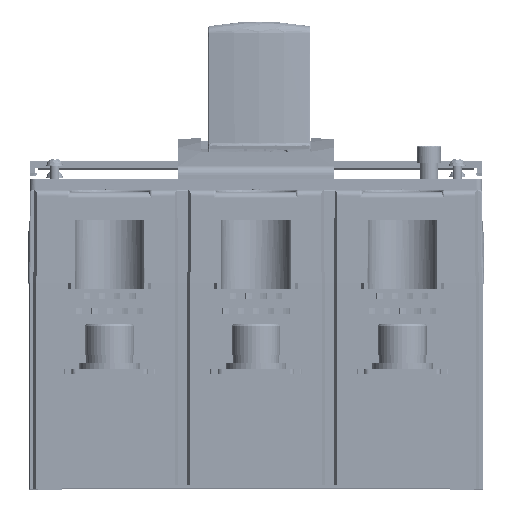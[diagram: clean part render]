
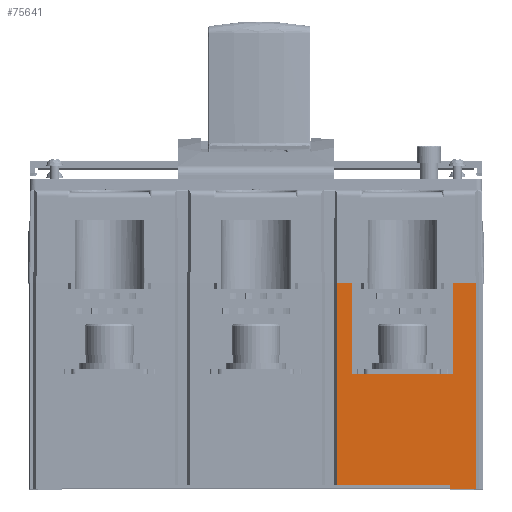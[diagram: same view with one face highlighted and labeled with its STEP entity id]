
A CAD part, top view. The second image highlights one B-rep face of the part: STEP entity #75641.
In plain terms, the highlighted planar face has unit normal (0, 0, 1).
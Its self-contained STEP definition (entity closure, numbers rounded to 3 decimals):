
#3094 = VECTOR ( 'NONE', #238302, 1000. ) ;
#15027 = ORIENTED_EDGE ( 'NONE', *, *, #219218, .F. ) ;
#25553 = CARTESIAN_POINT ( 'NONE',  ( 20.728, -16.002, 6.576 ) ) ;
#25857 = CARTESIAN_POINT ( 'NONE',  ( 121.588, 50.298, 6.576 ) ) ;
#37359 = CARTESIAN_POINT ( 'NONE',  ( 159.588, 20.298, 6.576 ) ) ;
#39336 = DIRECTION ( 'NONE',  ( 1., 0., 0. ) ) ;
#46519 = VERTEX_POINT ( 'NONE', #189696 ) ;
#51379 = EDGE_CURVE ( 'NONE', #68279, #153816, #164089, .T. ) ;
#53013 = VERTEX_POINT ( 'NONE', #232893 ) ;
#55403 = ORIENTED_EDGE ( 'NONE', *, *, #51379, .F. ) ;
#55511 = DIRECTION ( 'NONE',  ( 1., 0., 0. ) ) ;
#56698 = VECTOR ( 'NONE', #55511, 1000. ) ;
#58473 = LINE ( 'NONE', #82093, #255062 ) ;
#68279 = VERTEX_POINT ( 'NONE', #284366 ) ;
#69300 = ORIENTED_EDGE ( 'NONE', *, *, #246934, .F. ) ;
#69569 = EDGE_CURVE ( 'NONE', #53013, #72264, #185651, .T. ) ;
#72264 = VERTEX_POINT ( 'NONE', #257328 ) ;
#75641 = ADVANCED_FACE ( 'NONE', ( #305620 ), #125683, .F. ) ;
#76086 = LINE ( 'NONE', #176777, #285057 ) ;
#76790 = ORIENTED_EDGE ( 'NONE', *, *, #179485, .F. ) ;
#82093 = CARTESIAN_POINT ( 'NONE',  ( 167.088, 51.648, 6.576 ) ) ;
#87144 = EDGE_CURVE ( 'NONE', #179464, #311957, #132362, .T. ) ;
#94915 = LINE ( 'NONE', #288507, #3094 ) ;
#102339 = EDGE_LOOP ( 'NONE', ( #269939, #136103, #76790, #15027, #144002, #289645, #214553, #69300, #55403, #146062 ) ) ;
#103734 = VECTOR ( 'NONE', #263775, 1000. ) ;
#107731 = LINE ( 'NONE', #217452, #141254 ) ;
#107866 = EDGE_CURVE ( 'NONE', #166108, #179464, #312854, .T. ) ;
#107980 = CARTESIAN_POINT ( 'NONE',  ( 126.588, 20.298, 6.576 ) ) ;
#125683 = PLANE ( 'NONE',  #146070 ) ;
#132362 = LINE ( 'NONE', #137474, #56698 ) ;
#135374 = EDGE_CURVE ( 'NONE', #72264, #68279, #229187, .T. ) ;
#136103 = ORIENTED_EDGE ( 'NONE', *, *, #335826, .F. ) ;
#137474 = CARTESIAN_POINT ( 'NONE',  ( 167.998, 20.298, 6.576 ) ) ;
#141254 = VECTOR ( 'NONE', #267807, 1000. ) ;
#144002 = ORIENTED_EDGE ( 'NONE', *, *, #169189, .F. ) ;
#146062 = ORIENTED_EDGE ( 'NONE', *, *, #135374, .F. ) ;
#146070 = AXIS2_PLACEMENT_3D ( 'NONE', #339135, #308994, #202669 ) ;
#153816 = VERTEX_POINT ( 'NONE', #25857 ) ;
#163949 = DIRECTION ( 'NONE',  ( 0., -1., 0. ) ) ;
#164089 = LINE ( 'NONE', #212574, #268338 ) ;
#166108 = VERTEX_POINT ( 'NONE', #171276 ) ;
#169189 = EDGE_CURVE ( 'NONE', #311957, #295366, #107731, .T. ) ;
#171276 = CARTESIAN_POINT ( 'NONE',  ( 126.588, 50.298, 6.576 ) ) ;
#176623 = LINE ( 'NONE', #199507, #247700 ) ;
#176777 = CARTESIAN_POINT ( 'NONE',  ( 67.422, 50.298, 6.576 ) ) ;
#179464 = VERTEX_POINT ( 'NONE', #107980 ) ;
#179485 = EDGE_CURVE ( 'NONE', #308508, #46519, #58473, .T. ) ;
#184588 = DIRECTION ( 'NONE',  ( -1., 0., 0. ) ) ;
#185651 = LINE ( 'NONE', #267123, #319313 ) ;
#189696 = CARTESIAN_POINT ( 'NONE',  ( 167.088, -17.202, 6.576 ) ) ;
#199507 = CARTESIAN_POINT ( 'NONE',  ( 67.422, 50.298, 6.576 ) ) ;
#200209 = DIRECTION ( 'NONE',  ( 1., 0., 0. ) ) ;
#202669 = DIRECTION ( 'NONE',  ( -1., 0., 0. ) ) ;
#212574 = CARTESIAN_POINT ( 'NONE',  ( 121.588, 51.624, 6.576 ) ) ;
#214553 = ORIENTED_EDGE ( 'NONE', *, *, #107866, .F. ) ;
#214841 = DIRECTION ( 'NONE',  ( 0., 1., 0. ) ) ;
#217452 = CARTESIAN_POINT ( 'NONE',  ( 159.588, 51.648, 6.576 ) ) ;
#219218 = EDGE_CURVE ( 'NONE', #295366, #308508, #176623, .T. ) ;
#220779 = VECTOR ( 'NONE', #184588, 1000. ) ;
#229187 = LINE ( 'NONE', #25553, #220779 ) ;
#232893 = CARTESIAN_POINT ( 'NONE',  ( 158.588, -17.202, 6.576 ) ) ;
#238302 = DIRECTION ( 'NONE',  ( -1., 0., 0. ) ) ;
#246934 = EDGE_CURVE ( 'NONE', #153816, #166108, #76086, .T. ) ;
#247700 = VECTOR ( 'NONE', #39336, 1000. ) ;
#255062 = VECTOR ( 'NONE', #163949, 1000. ) ;
#257328 = CARTESIAN_POINT ( 'NONE',  ( 158.588, -16.002, 6.576 ) ) ;
#263775 = DIRECTION ( 'NONE',  ( 0., -1., 0. ) ) ;
#267123 = CARTESIAN_POINT ( 'NONE',  ( 158.588, 51.648, 6.576 ) ) ;
#267807 = DIRECTION ( 'NONE',  ( 0., 1., 0. ) ) ;
#268338 = VECTOR ( 'NONE', #214841, 1000. ) ;
#269939 = ORIENTED_EDGE ( 'NONE', *, *, #69569, .F. ) ;
#279763 = CARTESIAN_POINT ( 'NONE',  ( 167.088, 50.298, 6.576 ) ) ;
#284366 = CARTESIAN_POINT ( 'NONE',  ( 121.588, -16.002, 6.576 ) ) ;
#285057 = VECTOR ( 'NONE', #200209, 1000. ) ;
#288507 = CARTESIAN_POINT ( 'NONE',  ( 158.222, -17.202, 6.576 ) ) ;
#289645 = ORIENTED_EDGE ( 'NONE', *, *, #87144, .F. ) ;
#295366 = VERTEX_POINT ( 'NONE', #299999 ) ;
#299999 = CARTESIAN_POINT ( 'NONE',  ( 159.588, 50.298, 6.576 ) ) ;
#305620 = FACE_OUTER_BOUND ( 'NONE', #102339, .T. ) ;
#308508 = VERTEX_POINT ( 'NONE', #279763 ) ;
#308994 = DIRECTION ( 'NONE',  ( 0., 0., -1. ) ) ;
#311957 = VERTEX_POINT ( 'NONE', #37359 ) ;
#312848 = CARTESIAN_POINT ( 'NONE',  ( 126.588, 51.648, 6.576 ) ) ;
#312854 = LINE ( 'NONE', #312848, #103734 ) ;
#319313 = VECTOR ( 'NONE', #321875, 1000. ) ;
#321875 = DIRECTION ( 'NONE',  ( 0., 1., 0. ) ) ;
#335826 = EDGE_CURVE ( 'NONE', #46519, #53013, #94915, .T. ) ;
#339135 = CARTESIAN_POINT ( 'NONE',  ( 167.998, 51.648, 6.576 ) ) ;
